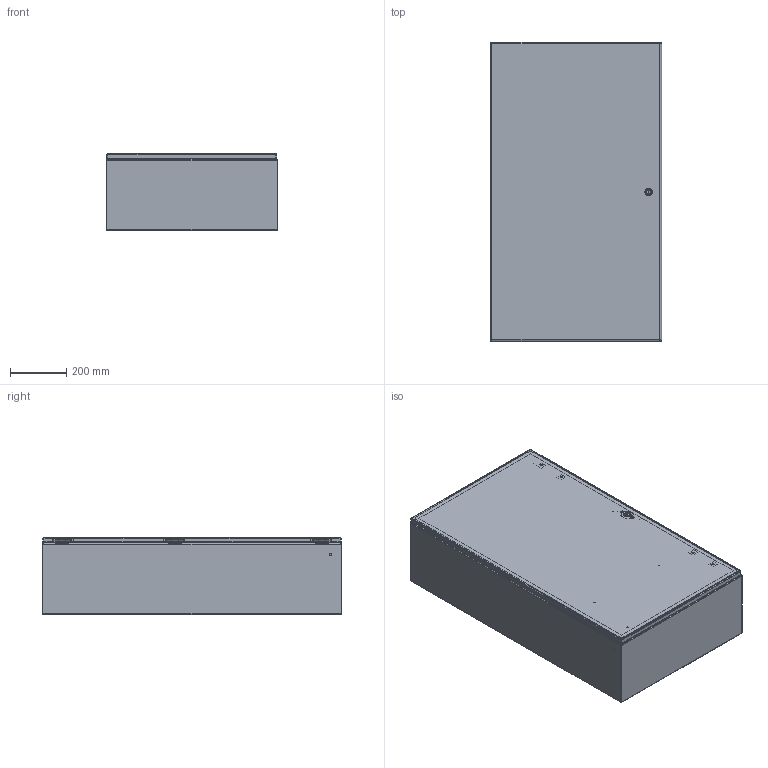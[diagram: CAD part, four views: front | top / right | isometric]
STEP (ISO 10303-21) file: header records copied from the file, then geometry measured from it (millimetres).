
FILE_DESCRIPTION (( 'STEP AP203' ), '1' );
FILE_NAME ('29422.step', '2015-03-30T06:25:37', ( '' ), ( '' ), 'SwSTEP 2.0', 'SolidWorks 2010', '' );
FILE_SCHEMA (( 'CONFIG_CONTROL_DESIGN' ));
Length unit declared in the file: inch
Products named in the file (32): 29422; 89117039; 89117038_default; 89117037_default; 89117036_default; 23271001_After Weld; 89117033_assy; 89117032_weldment; 89117030; 99401225; 87931362_87931362; 87408407_Unlocked; 64102001_Latch Open; 87540678; 64210001; 64202001; 64208001; 64205001; 87541995; 87541994_Installed Height; 64206004; 64207001; 64103001; 99411834; 89117034; 87543027; 89076399; 89076193; 89056623; 87929507; 87929767; 87929769_Installed on Pin
Assembly tree (51 placements, depth 5):
  29422
    89076399  x3
      89056623
      89076193
    89117039
      23271001_After Weld  x6
      89117037_default
      89117038_default
      99401225
      89117036_default
    87929507  x3
      87929769_Installed on Pin
      87929767
    89117033_assy
      89117034
      89117032_weldment
        87931362_87931362  x2
        99401225
        89117030
      87408407_Unlocked
        64102001_Latch Open
          64210001
          64202001
          87540678
          87541994_Installed Height
          64205001  x2
          87541995
          64208001
        64206004  x2
        64103001  x4
        99411834  x2
        64207001  x2
    87543027  x3
Bounding box: 609.6 x 1066.8 x 274.7 mm (x, y, z)
Volume: 4504769.7 mm3; surface area: 4813318 mm2
Topology: 49 solids, 49 shells, 3293 faces, 8568 edges, 5398 vertices
Faces by surface type: plane 1478, cylinder 903, bspline 626, torus 163, cone 87, sphere 36
Entity records: 72587 total; most frequent: CARTESIAN_POINT 25842, ORIENTED_EDGE 9372, DIRECTION 8208, EDGE_CURVE 4686, VERTEX_POINT 2963, AXIS2_PLACEMENT_3D 2769, VECTOR 2670, LINE 2670
